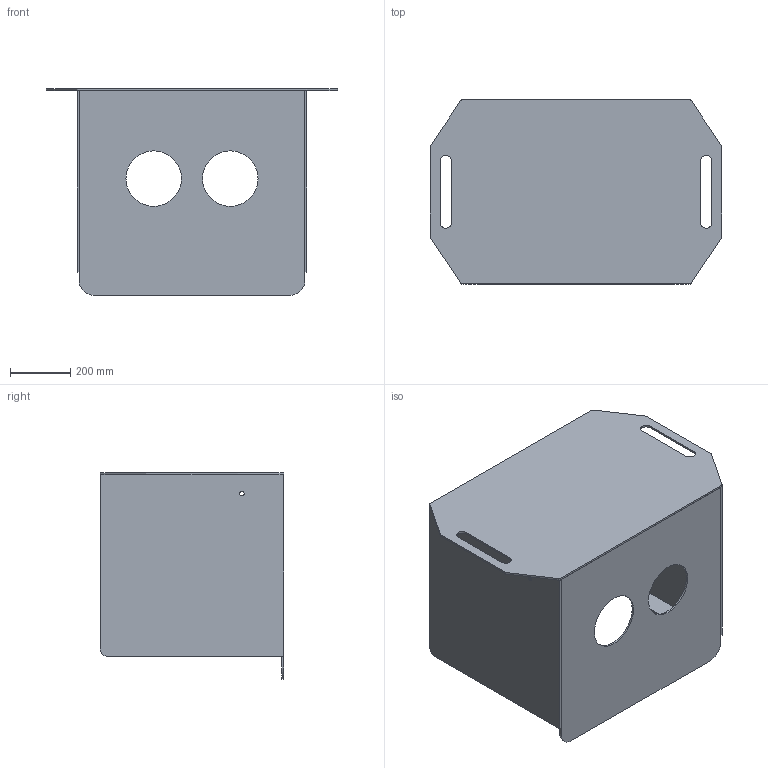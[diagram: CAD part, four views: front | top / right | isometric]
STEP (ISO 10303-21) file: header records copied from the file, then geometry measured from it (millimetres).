
FILE_DESCRIPTION(/* description */ (''),/* implementation_level */ '2;1');
FILE_NAME(/* name */ 'Intubation Box REV B.stp',/* time_stamp */ '2020-04-03T11:47:31-04:00',/* author */ (''),/* organization */ (''),/* preprocessor_version */ 'ST-DEVELOPER v16',/* originating_system */ 'SIEMENS PLM Software NX 11.0',/* authorisation */ '');
FILE_SCHEMA (('AUTOMOTIVE_DESIGN { 1 0 10303 214 3 1 1 1 }'));
Length unit declared in the file: inch
Products named in the file (1): Ray.6A7CDD117wty
Bounding box: 965.2 x 609.6 x 685.8 mm (x, y, z)
Volume: 11921619.8 mm3; surface area: 3870715.9 mm2
Topology: 7 solids, 7 shells, 78 faces, 198 edges, 134 vertices
Faces by surface type: plane 54, cylinder 24
Full cylindrical faces by diameter (mm): 15.062 x2, 184.15 x4
Entity records: 2370 total; most frequent: CARTESIAN_POINT 393, DIRECTION 392, ORIENTED_EDGE 372, EDGE_CURVE 186, LINE 138, VECTOR 138, VERTEX_POINT 128, AXIS2_PLACEMENT_3D 127
